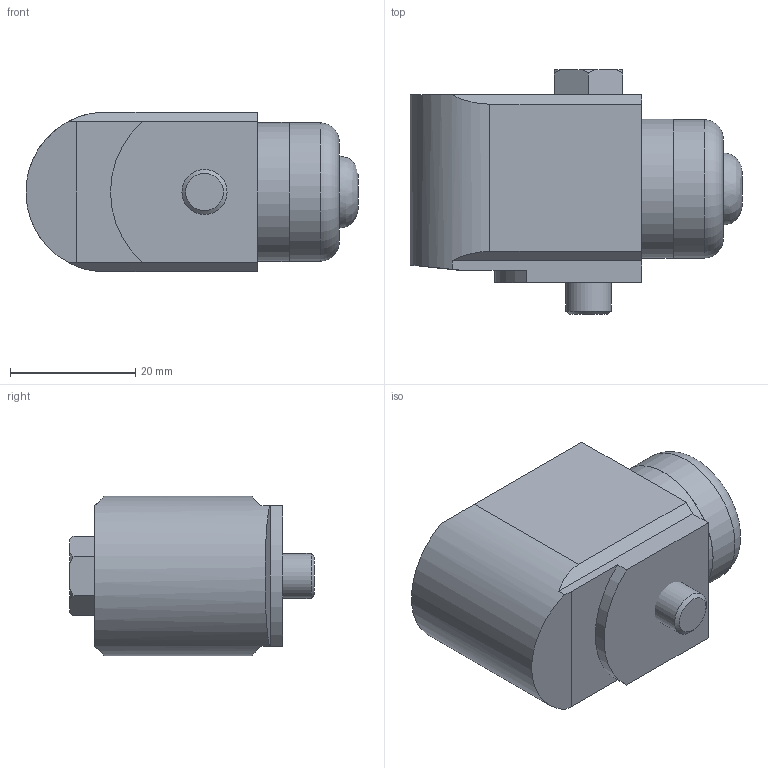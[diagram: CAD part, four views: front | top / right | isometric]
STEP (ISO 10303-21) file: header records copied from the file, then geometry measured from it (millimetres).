
FILE_DESCRIPTION(/* description */ (''),/* implementation_level */ '2;1');
FILE_NAME(/* name */ 'Z:\Engineering\Drawings\3D Library\Assemblies\Website\Premium Side\HS-150 Side Braided\HS-150SXXX0206.stp',/* time_stamp */ '2023-03-12T13:32:23+00:00',/* author */ ('Ricardo.Peneda'),/* organization */ (''),/* preprocessor_version */ 'ST-DEVELOPER v18.1',/* originating_system */ 'Autodesk Inventor 2021',/* authorisation */ '');
FILE_SCHEMA (('AUTOMOTIVE_DESIGN { 1 0 10303 214 3 1 1 }'));
Length unit declared in the file: inch
Products named in the file (1): HS-150SXXX0206_Shrinkwrap_1
Bounding box: 52.99 x 39 x 25.5 mm (x, y, z)
Volume: 24878.8 mm3; surface area: 10429.3 mm2
Topology: 4 solids, 4 shells, 67 faces, 169 edges, 122 vertices
Faces by surface type: plane 37, cylinder 17, cone 11, torus 1, bspline 1
Full cylindrical faces by diameter (mm): 4.2 x1, 4.5 x1, 5.359 x1, 7.2 x1, 10 x1, 13 x1, 13.941 x1, 14.95 x1, 15.34 x1, 15.35 x1, 17.941 x1, 19.891 x1, 20 x1, 22.141 x1, 22.2 x1
Entity records: 2229 total; most frequent: CARTESIAN_POINT 409, DIRECTION 379, ORIENTED_EDGE 338, EDGE_CURVE 169, AXIS2_PLACEMENT_3D 155, VERTEX_POINT 122, EDGE_LOOP 83, CIRCLE 83
